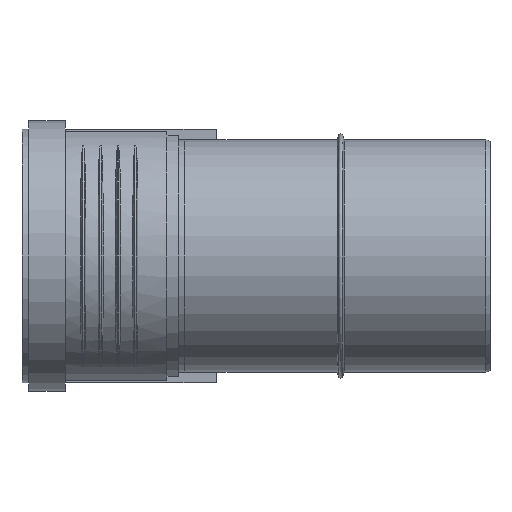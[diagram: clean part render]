
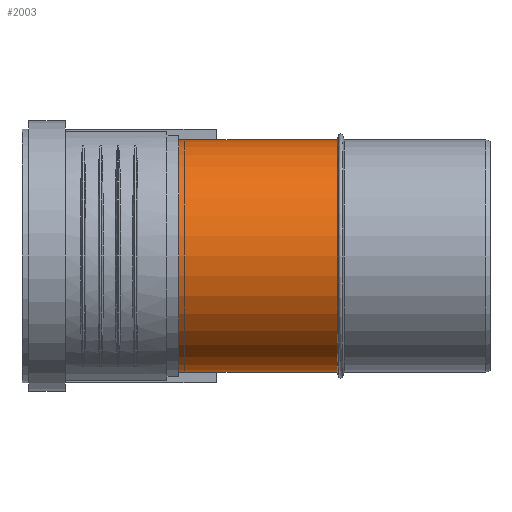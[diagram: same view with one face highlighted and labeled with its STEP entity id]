
A CAD part, left-side view. The second image highlights one B-rep face of the part: STEP entity #2003.
In plain terms, the highlighted cylindrical face has radius 55.1 mm (diameter 110.2 mm), a full revolution.
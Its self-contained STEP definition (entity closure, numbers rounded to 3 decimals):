
#262=CYLINDRICAL_SURFACE($,#2146,55.1);
#414=B_SPLINE_CURVE_WITH_KNOTS($,3,(#2982,#2983,#2984,#2985,#2986,#2987,
#2988,#2989,#2990,#2991,#2992,#2993,#2994,#2995,#2996,#2997,#2998,#2999,
#3000,#3001,#3002,#3003,#3004,#3005,#3006,#3007,#3008,#3009,#3010,#3011,
#3012,#3013,#3014,#3015,#3016,#3017,#3018,#3019,#3020,#3021,#3022,#3023,
#3024,#3025,#3026,#3027,#3028,#3029,#3030,#3031,#3032,#3033,#3034,#3035,
#3036,#3037,#3038,#3039,#3040,#3041,#3042,#3043,#3044,#3045,#3046,#3047),
 .UNSPECIFIED.,.T.,.F.,(4,2,2,2,2,2,2,2,2,2,2,2,2,2,2,2,2,2,2,2,2,2,2,2,
2,2,2,2,2,2,2,2,4),(0.,0.751,1.502,2.254,
3.005,3.744,4.483,5.222,5.961,
6.696,7.431,8.167,8.902,9.657,
10.412,11.166,11.921,12.656,13.391,
14.126,14.861,15.596,16.33,17.065,
17.799,18.534,19.268,20.003,20.737,
21.472,22.207,22.942,23.677),
 .UNSPECIFIED.);
#528=FACE_BOUND($,#723,.T.);
#529=FACE_BOUND($,#724,.T.);
#597=FACE_OUTER_BOUND($,#722,.T.);
#722=EDGE_LOOP($,(#1475));
#723=EDGE_LOOP($,(#1476));
#724=EDGE_LOOP($,(#1477));
#889=CIRCLE($,#2134,55.1);
#894=CIRCLE($,#2143,55.1);
#987=VERTEX_POINT($,#2963);
#992=VERTEX_POINT($,#2977);
#993=VERTEX_POINT($,#2981);
#1190=EDGE_CURVE($,#987,#987,#889,.T.);
#1195=EDGE_CURVE($,#992,#992,#894,.T.);
#1196=EDGE_CURVE($,#993,#993,#414,.T.);
#1475=ORIENTED_EDGE($,*,*,#1190,.T.);
#1476=ORIENTED_EDGE($,*,*,#1195,.T.);
#1477=ORIENTED_EDGE($,*,*,#1196,.T.);
#2003=ADVANCED_FACE($,(#597,#528,#529),#262,.T.);
#2134=AXIS2_PLACEMENT_3D($,#2964,#2375,#2376);
#2143=AXIS2_PLACEMENT_3D($,#2978,#2393,#2394);
#2146=AXIS2_PLACEMENT_3D($,#3048,#2399,#2400);
#2375=DIRECTION('center_axis',(0.,1.,0.));
#2376=DIRECTION('ref_axis',(1.,0.,0.));
#2393=DIRECTION('center_axis',(0.,-1.,0.));
#2394=DIRECTION('ref_axis',(1.,0.,0.));
#2399=DIRECTION('center_axis',(0.,1.,0.));
#2400=DIRECTION('ref_axis',(1.,0.,0.));
#2963=CARTESIAN_POINT('',(-55.1,72.4,0.));
#2964=CARTESIAN_POINT('Origin',(0.,72.4,0.));
#2977=CARTESIAN_POINT('',(55.1,151.24,0.));
#2978=CARTESIAN_POINT('Origin',(0.,151.24,0.));
#2981=CARTESIAN_POINT('',(40.277,110.299,37.6));
#2982=CARTESIAN_POINT('Ctrl Pts',(40.277,110.299,37.6));
#2983=CARTESIAN_POINT('Ctrl Pts',(40.277,112.803,37.6));
#2984=CARTESIAN_POINT('Ctrl Pts',(40.517,115.341,37.347));
#2985=CARTESIAN_POINT('Ctrl Pts',(41.419,120.318,36.344));
#2986=CARTESIAN_POINT('Ctrl Pts',(42.079,122.758,35.594));
#2987=CARTESIAN_POINT('Ctrl Pts',(43.643,127.404,33.658));
#2988=CARTESIAN_POINT('Ctrl Pts',(44.546,129.615,32.471));
#2989=CARTESIAN_POINT('Ctrl Pts',(46.406,133.706,29.752));
#2990=CARTESIAN_POINT('Ctrl Pts',(47.362,135.587,28.219));
#2991=CARTESIAN_POINT('Ctrl Pts',(49.145,138.905,24.982));
#2992=CARTESIAN_POINT('Ctrl Pts',(50.043,140.473,23.16));
#2993=CARTESIAN_POINT('Ctrl Pts',(51.709,143.275,19.154));
#2994=CARTESIAN_POINT('Ctrl Pts',(52.476,144.51,16.969));
#2995=CARTESIAN_POINT('Ctrl Pts',(53.749,146.52,12.359));
#2996=CARTESIAN_POINT('Ctrl Pts',(54.256,147.297,9.928));
#2997=CARTESIAN_POINT('Ctrl Pts',(54.931,148.328,4.98));
#2998=CARTESIAN_POINT('Ctrl Pts',(55.1,148.582,2.463));
#2999=CARTESIAN_POINT('Ctrl Pts',(55.1,148.582,-2.451));
#3000=CARTESIAN_POINT('Ctrl Pts',(54.933,148.33,-4.957));
#3001=CARTESIAN_POINT('Ctrl Pts',(54.263,147.308,-9.884));
#3002=CARTESIAN_POINT('Ctrl Pts',(53.761,146.538,-12.306));
#3003=CARTESIAN_POINT('Ctrl Pts',(52.498,144.544,-16.9));
#3004=CARTESIAN_POINT('Ctrl Pts',(51.737,143.32,-19.078));
#3005=CARTESIAN_POINT('Ctrl Pts',(50.082,140.54,-23.074));
#3006=CARTESIAN_POINT('Ctrl Pts',(49.19,138.985,-24.893));
#3007=CARTESIAN_POINT('Ctrl Pts',(47.408,135.677,-28.142));
#3008=CARTESIAN_POINT('Ctrl Pts',(46.448,133.792,-29.687));
#3009=CARTESIAN_POINT('Ctrl Pts',(44.578,129.69,-32.428));
#3010=CARTESIAN_POINT('Ctrl Pts',(43.668,127.472,-33.625));
#3011=CARTESIAN_POINT('Ctrl Pts',(42.094,122.81,-35.577));
#3012=CARTESIAN_POINT('Ctrl Pts',(41.429,120.361,-36.333));
#3013=CARTESIAN_POINT('Ctrl Pts',(40.519,115.364,-37.345));
#3014=CARTESIAN_POINT('Ctrl Pts',(40.277,112.815,-37.6));
#3015=CARTESIAN_POINT('Ctrl Pts',(40.277,107.848,-37.6));
#3016=CARTESIAN_POINT('Ctrl Pts',(40.508,105.362,-37.358));
#3017=CARTESIAN_POINT('Ctrl Pts',(41.392,100.496,-36.375));
#3018=CARTESIAN_POINT('Ctrl Pts',(42.043,98.116,-35.636));
#3019=CARTESIAN_POINT('Ctrl Pts',(43.598,93.6,-33.716));
#3020=CARTESIAN_POINT('Ctrl Pts',(44.5,91.46,-32.534));
#3021=CARTESIAN_POINT('Ctrl Pts',(46.36,87.517,-29.824));
#3022=CARTESIAN_POINT('Ctrl Pts',(47.317,85.713,-28.295));
#3023=CARTESIAN_POINT('Ctrl Pts',(49.114,82.519,-25.045));
#3024=CARTESIAN_POINT('Ctrl Pts',(50.024,81.009,-23.204));
#3025=CARTESIAN_POINT('Ctrl Pts',(51.706,78.325,-19.164));
#3026=CARTESIAN_POINT('Ctrl Pts',(52.478,77.15,-16.965));
#3027=CARTESIAN_POINT('Ctrl Pts',(53.755,75.246,-12.336));
#3028=CARTESIAN_POINT('Ctrl Pts',(54.261,74.514,-9.901));
#3029=CARTESIAN_POINT('Ctrl Pts',(54.933,73.546,-4.957));
#3030=CARTESIAN_POINT('Ctrl Pts',(55.1,73.31,-2.448));
#3031=CARTESIAN_POINT('Ctrl Pts',(55.1,73.31,2.448));
#3032=CARTESIAN_POINT('Ctrl Pts',(54.933,73.546,4.957));
#3033=CARTESIAN_POINT('Ctrl Pts',(54.261,74.514,9.901));
#3034=CARTESIAN_POINT('Ctrl Pts',(53.755,75.246,12.336));
#3035=CARTESIAN_POINT('Ctrl Pts',(52.478,77.15,16.965));
#3036=CARTESIAN_POINT('Ctrl Pts',(51.706,78.325,19.164));
#3037=CARTESIAN_POINT('Ctrl Pts',(50.024,81.009,23.204));
#3038=CARTESIAN_POINT('Ctrl Pts',(49.114,82.519,25.045));
#3039=CARTESIAN_POINT('Ctrl Pts',(47.317,85.713,28.295));
#3040=CARTESIAN_POINT('Ctrl Pts',(46.36,87.517,29.824));
#3041=CARTESIAN_POINT('Ctrl Pts',(44.5,91.46,32.534));
#3042=CARTESIAN_POINT('Ctrl Pts',(43.598,93.6,33.716));
#3043=CARTESIAN_POINT('Ctrl Pts',(42.043,98.116,35.636));
#3044=CARTESIAN_POINT('Ctrl Pts',(41.392,100.496,36.375));
#3045=CARTESIAN_POINT('Ctrl Pts',(40.508,105.362,37.358));
#3046=CARTESIAN_POINT('Ctrl Pts',(40.277,107.848,37.6));
#3047=CARTESIAN_POINT('Ctrl Pts',(40.277,110.299,37.6));
#3048=CARTESIAN_POINT('Origin',(0.,0.,0.));
